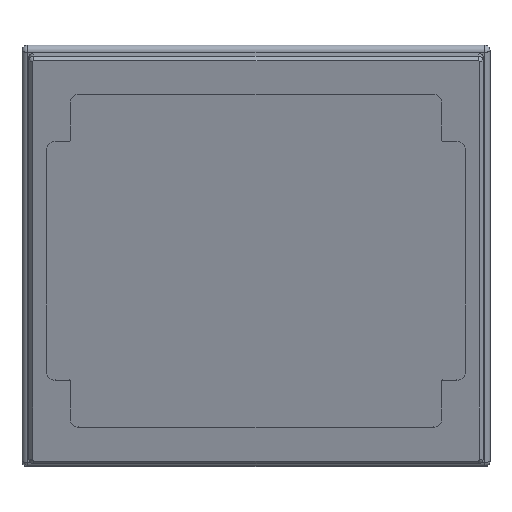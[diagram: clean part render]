
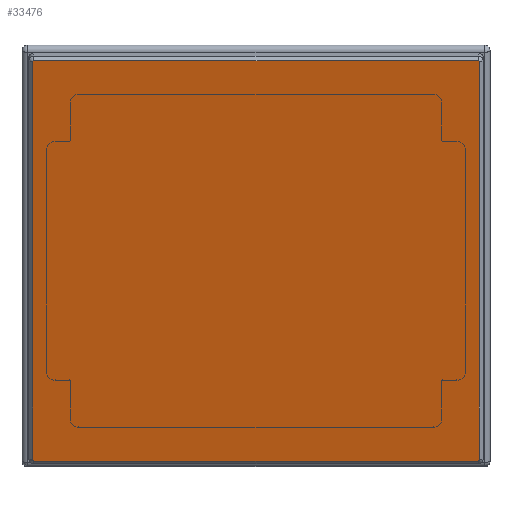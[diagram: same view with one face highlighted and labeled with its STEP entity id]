
A CAD part, top view. The second image highlights one B-rep face of the part: STEP entity #33476.
In plain terms, the highlighted planar face has unit normal (0, -0.259, 0.966).
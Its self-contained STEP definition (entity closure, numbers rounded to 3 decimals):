
#3494=LINE('',#60254,#6521);
#3495=LINE('',#60258,#6522);
#3496=LINE('',#60262,#6523);
#3497=LINE('',#60265,#6524);
#6521=VECTOR('',#46603,10.);
#6522=VECTOR('',#46606,10.);
#6523=VECTOR('',#46609,10.);
#6524=VECTOR('',#46612,10.);
#9230=FACE_OUTER_BOUND('',#11313,.T.);
#11313=EDGE_LOOP('',(#30074,#30075,#30076,#30077,#30078,#30079,#30080,#30081));
#12870=CIRCLE('',#36911,1.083);
#12871=CIRCLE('',#36912,1.083);
#12872=CIRCLE('',#36913,1.083);
#12873=CIRCLE('',#36914,1.083);
#15901=VERTEX_POINT('',#60250);
#15902=VERTEX_POINT('',#60251);
#15903=VERTEX_POINT('',#60253);
#15904=VERTEX_POINT('',#60255);
#15905=VERTEX_POINT('',#60257);
#15906=VERTEX_POINT('',#60259);
#15907=VERTEX_POINT('',#60261);
#15908=VERTEX_POINT('',#60263);
#20636=EDGE_CURVE('',#15901,#15902,#12870,.T.);
#20637=EDGE_CURVE('',#15903,#15901,#3494,.T.);
#20638=EDGE_CURVE('',#15904,#15903,#12871,.T.);
#20639=EDGE_CURVE('',#15905,#15904,#3495,.T.);
#20640=EDGE_CURVE('',#15906,#15905,#12872,.T.);
#20641=EDGE_CURVE('',#15907,#15906,#3496,.T.);
#20642=EDGE_CURVE('',#15908,#15907,#12873,.T.);
#20643=EDGE_CURVE('',#15902,#15908,#3497,.T.);
#30074=ORIENTED_EDGE('',*,*,#20636,.F.);
#30075=ORIENTED_EDGE('',*,*,#20637,.F.);
#30076=ORIENTED_EDGE('',*,*,#20638,.F.);
#30077=ORIENTED_EDGE('',*,*,#20639,.F.);
#30078=ORIENTED_EDGE('',*,*,#20640,.F.);
#30079=ORIENTED_EDGE('',*,*,#20641,.F.);
#30080=ORIENTED_EDGE('',*,*,#20642,.F.);
#30081=ORIENTED_EDGE('',*,*,#20643,.F.);
#31357=PLANE('',#36910);
#33476=ADVANCED_FACE('',(#9230),#31357,.F.);
#36910=AXIS2_PLACEMENT_3D('',#60249,#46599,#46600);
#36911=AXIS2_PLACEMENT_3D('',#60252,#46601,#46602);
#36912=AXIS2_PLACEMENT_3D('',#60256,#46604,#46605);
#36913=AXIS2_PLACEMENT_3D('',#60260,#46607,#46608);
#36914=AXIS2_PLACEMENT_3D('',#60264,#46610,#46611);
#46599=DIRECTION('center_axis',(0.,0.259,
-0.966));
#46600=DIRECTION('ref_axis',(-1.,0.,0.));
#46601=DIRECTION('center_axis',(0.,0.259,
-0.966));
#46602=DIRECTION('ref_axis',(0.,0.966,0.259));
#46603=DIRECTION('',(0.,0.966,0.259));
#46604=DIRECTION('center_axis',(0.,0.259,
-0.966));
#46605=DIRECTION('ref_axis',(0.,0.966,0.259));
#46606=DIRECTION('',(-1.,0.,0.));
#46607=DIRECTION('center_axis',(0.,0.259,
-0.966));
#46608=DIRECTION('ref_axis',(0.,0.966,0.259));
#46609=DIRECTION('',(0.,-0.966,-0.259));
#46610=DIRECTION('center_axis',(0.,0.259,
-0.966));
#46611=DIRECTION('ref_axis',(0.,0.966,0.259));
#46612=DIRECTION('',(1.,0.,0.));
#60249=CARTESIAN_POINT('Origin',(0.,-5.405,
135.179));
#60250=CARTESIAN_POINT('',(-238.583,207.269,192.165));
#60251=CARTESIAN_POINT('',(-237.5,208.315,192.445));
#60252=CARTESIAN_POINT('Origin',(-237.5,207.269,192.165));
#60253=CARTESIAN_POINT('',(-238.583,-218.078,78.193));
#60254=CARTESIAN_POINT('',(-238.583,-19.781,131.327));
#60255=CARTESIAN_POINT('',(-237.5,-219.124,77.913));
#60256=CARTESIAN_POINT('Origin',(-237.5,-218.078,78.193));
#60257=CARTESIAN_POINT('',(237.5,-219.124,77.913));
#60258=CARTESIAN_POINT('',(0.,-219.124,77.913));
#60259=CARTESIAN_POINT('',(238.583,-218.078,78.193));
#60260=CARTESIAN_POINT('Origin',(237.5,-218.078,78.193));
#60261=CARTESIAN_POINT('',(238.583,207.269,192.165));
#60262=CARTESIAN_POINT('',(238.583,-19.781,131.327));
#60263=CARTESIAN_POINT('',(237.5,208.315,192.445));
#60264=CARTESIAN_POINT('Origin',(237.5,207.269,192.165));
#60265=CARTESIAN_POINT('',(0.,208.315,192.445));
